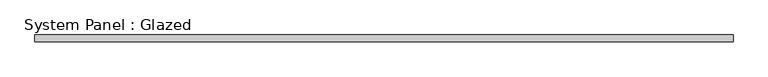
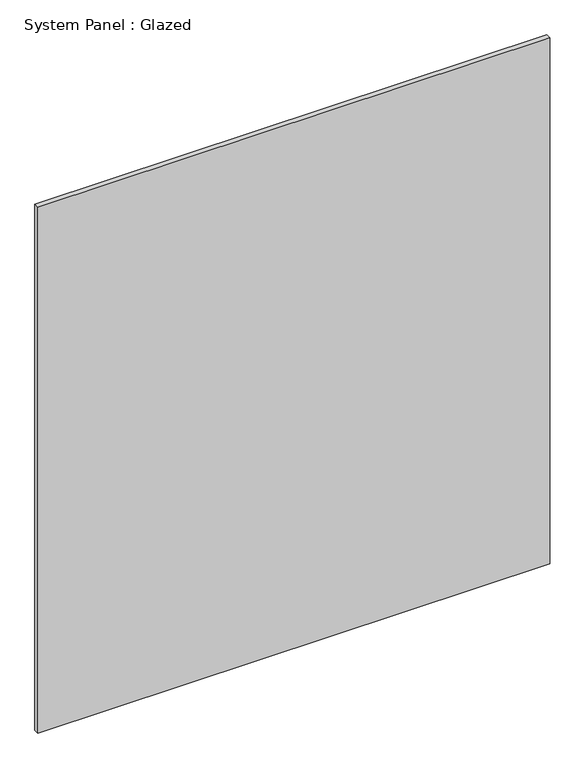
"""IFC4 building model written with IfcOpenShell, lengths in millimetres: plate geometry, System Panel : Glazed."""

from ifc_helpers import new_model, si_unit, origin, origin_with_axes, place, context, project, spatial, polyline, outline, extrude, source, transform, mapped, element, save


def system_panel_glazed_3da0dbdb(model_context):
    return source(origin(), model_context, "Body", "SweptSolid", [
        extrude(outline(polyline([(1312.5, 24.5), (-1312.5, 24.5), (-1312.5, 49.5), (1312.5, 49.5), (1312.5, 24.5)])), origin_with_axes(), (0.0, 0.0, 1.0), 2850.0),
    ])


if __name__ == "__main__":
    model = new_model("IFC4")
    model_context = context("Model", 3, world=origin())
    ifc_project = project(units=[si_unit("LENGTHUNIT", "METRE", prefix="MILLI")], contexts=[model_context])
    site = spatial("IfcSite", under=ifc_project)
    building = spatial("IfcBuilding", under=site)
    placement = place(None, origin())
    system_panel_glazed_shape = system_panel_glazed_3da0dbdb(model_context)
    element("IfcPlate", 1, ObjectType="System Panel : Glazed", at=placement, inside=building, context=model_context, shape_type="MappedRepresentation", body=[
        mapped(system_panel_glazed_shape, transform((0.0, 0.0, 0.0), x_axis=(1.0, 0.0, 0.0), y_axis=(0.0, 1.0, 0.0), z_axis=(0.0, 0.0, 1.0))),
    ])
    save(model, "model.ifc")
